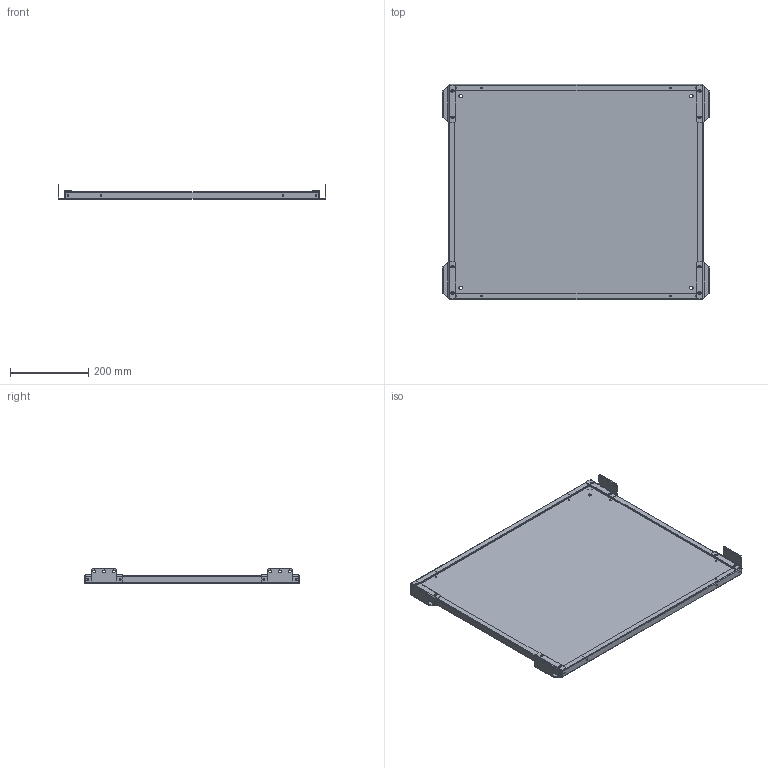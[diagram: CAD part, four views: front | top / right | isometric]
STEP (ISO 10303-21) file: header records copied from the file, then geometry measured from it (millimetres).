
FILE_DESCRIPTION (( 'STEP AP203' ), '1' );
FILE_NAME ('MP 65.55 M Ïàíåëü ìîíòàæíàÿ ñåêöèîííàÿ.STEP', '2013-01-09T13:36:14', ( 'System' ), ( '' ), 'SwSTEP 2.0', 'SolidWorks 2012', '' );
FILE_SCHEMA (( 'CONFIG_CONTROL_DESIGN' ));
Length unit declared in the file: millimetre
Products named in the file (1): MP 65.55 M Ïàíåëü ìîíòàæíàÿ ñåêöèîííàÿ
Bounding box: 685 x 550 x 37.75 mm (x, y, z)
Volume: 908958.5 mm3; surface area: 918660.8 mm2
Topology: 5 solids, 5 shells, 388 faces, 1016 edges, 632 vertices
Faces by surface type: cylinder 196, plane 168, bspline 16, sphere 8
Entity records: 12713 total; most frequent: CARTESIAN_POINT 2749, DIRECTION 2050, ORIENTED_EDGE 2016, EDGE_CURVE 1008, AXIS2_PLACEMENT_3D 733, VERTEX_POINT 632, VECTOR 584, LINE 584
